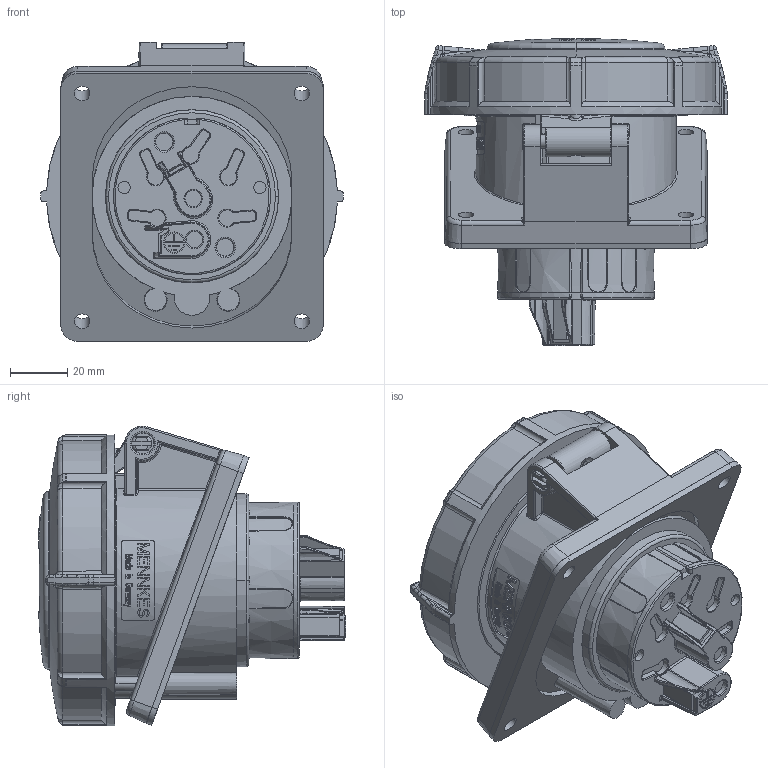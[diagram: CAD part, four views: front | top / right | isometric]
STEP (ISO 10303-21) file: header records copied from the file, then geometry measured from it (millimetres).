
FILE_DESCRIPTION((''),'2;1');
FILE_NAME('1113582_ASM_SW0001','2017-10-27T',('gisse'),('MENNEKES'),'PRO/ENGINEER BY PARAMETRIC TECHNOLOGY CORPORATION, 2015440','PRO/ENGINEER BY PARAMETRIC TECHNOLOGY CORPORATION, 2015440','');
FILE_SCHEMA(('AUTOMOTIVE_DESIGN { 1 0 10303 214 1 1 1 1 }'));
Products named in the file (1): 1113582_ASM_SW0001
Bounding box: 106 x 107.81 x 105 mm (x, y, z)
Volume: 463222.8 mm3; surface area: 58624.4 mm2
Topology: 1 solids, 1 shells, 1627 faces, 4254 edges, 2677 vertices
Faces by surface type: plane 774, bspline 336, cylinder 285, torus 123, cone 90, sphere 13, extrusion 6
Entity records: 96031 total; most frequent: CARTESIAN_POINT 27406, ORIENTED_EDGE 8502, DIRECTION 6378, PRESENTATION_STYLE_ASSIGNMENT 5846, STYLED_ITEM 4258, CURVE_STYLE 4257, EDGE_CURVE 4251, FILL_AREA_STYLE_COLOUR 3177
